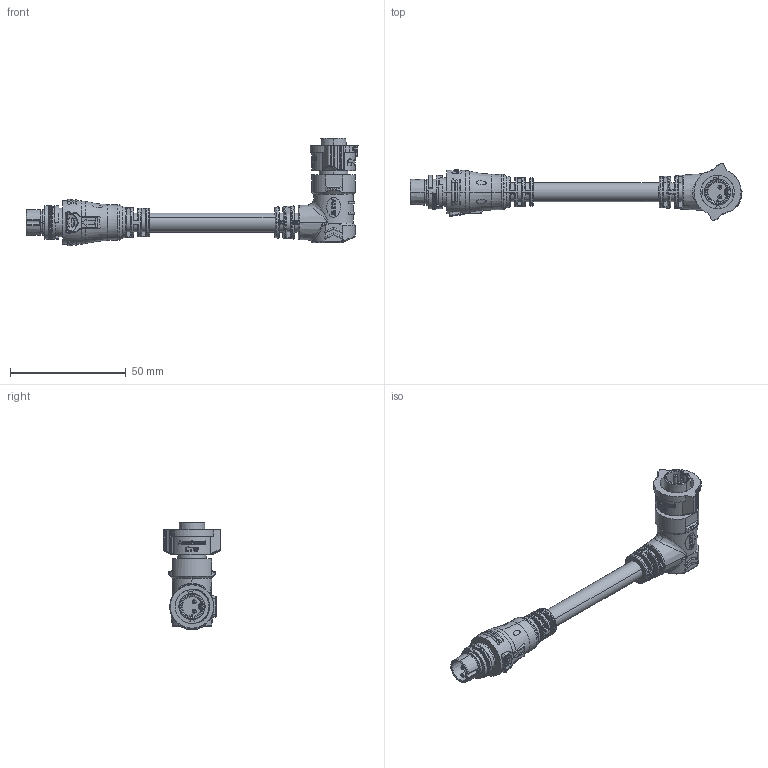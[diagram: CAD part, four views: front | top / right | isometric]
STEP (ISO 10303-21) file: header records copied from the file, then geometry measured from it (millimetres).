
FILE_DESCRIPTION((''),'2;1');
FILE_NAME('AB-BB02BL-BBBR-QEXXX_SW0001','2021-10-14T',('L050004'),(''),'PRO/ENGINEER BY PARAMETRIC TECHNOLOGY CORPORATION, 2017170','PRO/ENGINEER BY PARAMETRIC TECHNOLOGY CORPORATION, 2017170','');
FILE_SCHEMA(('CONFIG_CONTROL_DESIGN'));
Length unit declared in the file: millimetre
Products named in the file (1): AB-BB02BL-BBBR-QEXXX_SW0001
Bounding box: 143.35 x 25 x 46.44 mm (x, y, z)
Volume: 24128.9 mm3; surface area: 11549.6 mm2
Topology: 1 solids, 1 shells, 1389 faces, 3843 edges, 2526 vertices
Faces by surface type: plane 573, extrusion 290, cylinder 209, bspline 207, cone 44, torus 43, revolution 15, sphere 8
Entity records: 72035 total; most frequent: CARTESIAN_POINT 39570, ORIENTED_EDGE 7686, DIRECTION 5159, EDGE_CURVE 3843, VERTEX_POINT 2526, B_SPLINE_CURVE_WITH_KNOTS 1831, VECTOR 1824, AXIS2_PLACEMENT_3D 1660
